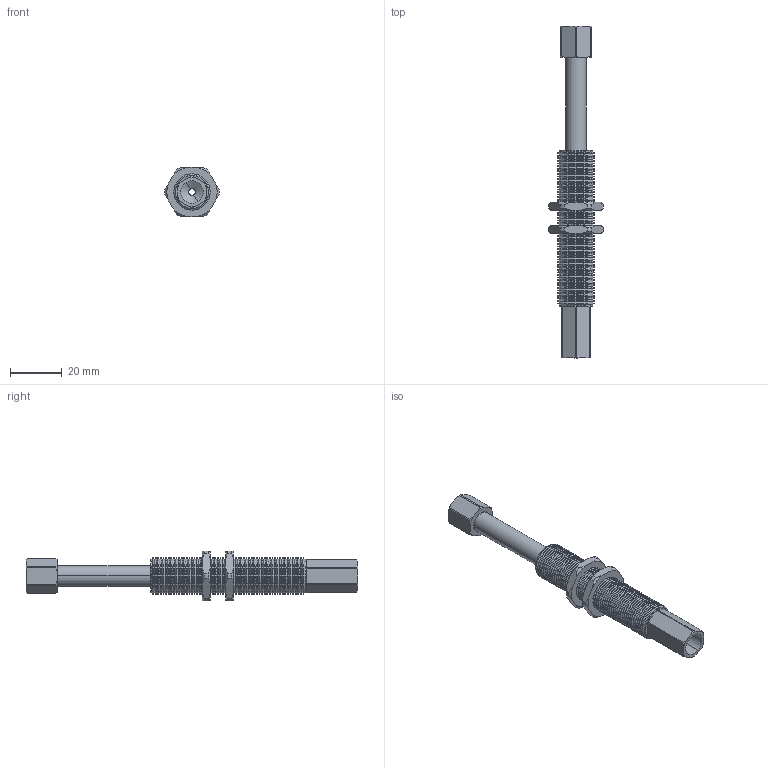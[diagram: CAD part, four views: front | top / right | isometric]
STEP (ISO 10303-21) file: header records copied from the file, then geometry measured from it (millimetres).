
FILE_DESCRIPTION (( 'STEP AP214' ), '1' );
FILE_NAME ('VFRT1436-G18.STEP', '2019-11-18T05:44:19', ( '微软用户' ), ( '微软中国' ), 'SwSTEP 2.0', 'SolidWorks 2016', '' );
FILE_SCHEMA (( 'AUTOMOTIVE_DESIGN' ));
Length unit declared in the file: millimetre
Products named in the file (1): VFRT1436-G18
Bounding box: 20.99 x 128 x 19 mm (x, y, z)
Volume: 12502.5 mm3; surface area: 12324.1 mm2
Topology: 5 solids, 5 shells, 561 faces, 1210 edges, 666 vertices
Faces by surface type: cone 328, cylinder 188, plane 41, torus 4
Entity records: 21259 total; most frequent: DIRECTION 2812, CARTESIAN_POINT 2726, ORIENTED_EDGE 2420, EDGE_CURVE 1210, AXIS2_PLACEMENT_3D 1136, VERTEX_POINT 666, EDGE_LOOP 578, CIRCLE 574
